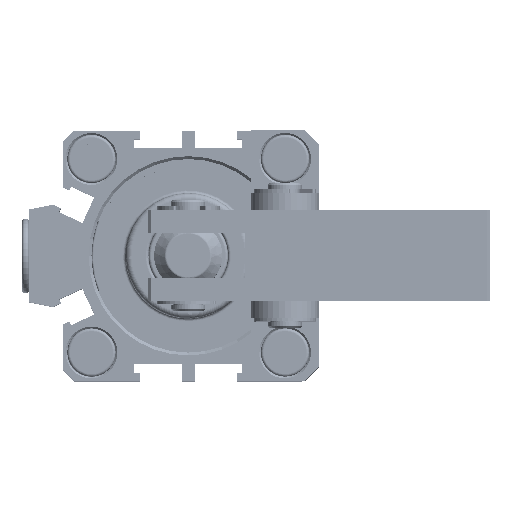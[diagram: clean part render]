
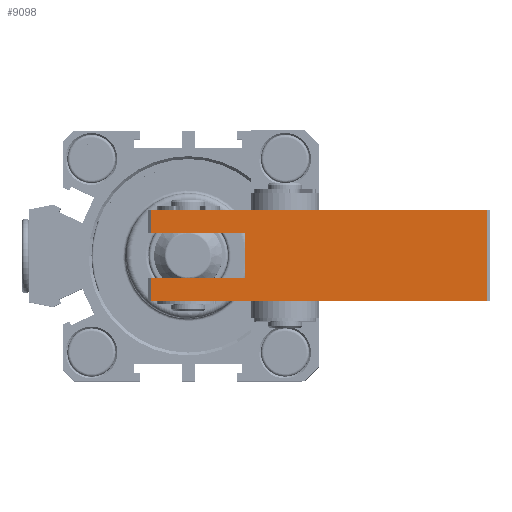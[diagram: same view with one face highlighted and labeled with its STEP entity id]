
A CAD part, top view. The second image highlights one B-rep face of the part: STEP entity #9098.
In plain terms, the highlighted planar face has unit normal (0, 0, 1) as drawn and (0, -1, 0) by its records, which use the part's own axes.
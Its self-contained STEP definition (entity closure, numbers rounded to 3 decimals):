
#622=PLANE('',#10046);
#1060=FACE_OUTER_BOUND('',#1578,.T.);
#1578=EDGE_LOOP('',(#6581,#6582,#6583,#6584,#6585,#6586,#6587,#6588));
#2104=LINE('',#14167,#2674);
#2115=LINE('',#14190,#2685);
#2126=LINE('',#14211,#2696);
#2129=LINE('',#14217,#2699);
#2130=LINE('',#14221,#2700);
#2131=LINE('',#14222,#2701);
#2132=LINE('',#14223,#2702);
#2133=LINE('',#14224,#2703);
#2674=VECTOR('',#11426,1000.);
#2685=VECTOR('',#11443,1000.);
#2696=VECTOR('',#11456,1000.);
#2699=VECTOR('',#11461,1000.);
#2700=VECTOR('',#11464,1000.);
#2701=VECTOR('',#11465,1000.);
#2702=VECTOR('',#11466,1000.);
#2703=VECTOR('',#11467,1000.);
#3943=VERTEX_POINT('',#14165);
#3944=VERTEX_POINT('',#14166);
#3952=VERTEX_POINT('',#14187);
#3953=VERTEX_POINT('',#14189);
#3962=VERTEX_POINT('',#14209);
#3964=VERTEX_POINT('',#14215);
#3965=VERTEX_POINT('',#14219);
#3966=VERTEX_POINT('',#14220);
#4973=EDGE_CURVE('',#3943,#3944,#2104,.T.);
#4984=EDGE_CURVE('',#3952,#3953,#2115,.T.);
#4995=EDGE_CURVE('',#3944,#3962,#2126,.T.);
#4998=EDGE_CURVE('',#3952,#3964,#2129,.T.);
#4999=EDGE_CURVE('',#3965,#3966,#2130,.T.);
#5000=EDGE_CURVE('',#3943,#3965,#2131,.T.);
#5001=EDGE_CURVE('',#3953,#3962,#2132,.T.);
#5002=EDGE_CURVE('',#3966,#3964,#2133,.T.);
#6581=ORIENTED_EDGE('',*,*,#4999,.F.);
#6582=ORIENTED_EDGE('',*,*,#5000,.F.);
#6583=ORIENTED_EDGE('',*,*,#4973,.T.);
#6584=ORIENTED_EDGE('',*,*,#4995,.T.);
#6585=ORIENTED_EDGE('',*,*,#5001,.F.);
#6586=ORIENTED_EDGE('',*,*,#4984,.F.);
#6587=ORIENTED_EDGE('',*,*,#4998,.T.);
#6588=ORIENTED_EDGE('',*,*,#5002,.F.);
#9098=ADVANCED_FACE('',(#1060),#622,.F.);
#10046=AXIS2_PLACEMENT_3D('',#14218,#11462,#11463);
#11426=DIRECTION('',(0.,0.,-1.));
#11443=DIRECTION('',(1.,0.,0.));
#11456=DIRECTION('',(1.,0.,0.));
#11461=DIRECTION('',(0.,0.,-1.));
#11462=DIRECTION('center_axis',(0.,1.,0.));
#11463=DIRECTION('ref_axis',(0.,0.,1.));
#11464=DIRECTION('',(0.,0.,1.));
#11465=DIRECTION('',(1.,0.,0.));
#11466=DIRECTION('',(0.,0.,-1.));
#11467=DIRECTION('',(-1.,0.,0.));
#14165=CARTESIAN_POINT('',(-14182.94,2054.79,4.));
#14166=CARTESIAN_POINT('',(-14182.94,2054.79,0.));
#14167=CARTESIAN_POINT('',(-14182.94,2054.79,16.));
#14187=CARTESIAN_POINT('',(-14182.94,2054.79,16.));
#14189=CARTESIAN_POINT('',(-14123.94,2054.79,16.));
#14190=CARTESIAN_POINT('',(-14123.94,2054.79,16.));
#14209=CARTESIAN_POINT('',(-14123.94,2054.79,0.));
#14211=CARTESIAN_POINT('',(-14123.94,2054.79,0.));
#14215=CARTESIAN_POINT('',(-14182.94,2054.79,12.));
#14217=CARTESIAN_POINT('',(-14182.94,2054.79,16.));
#14218=CARTESIAN_POINT('Origin',(-14123.94,2054.79,16.));
#14219=CARTESIAN_POINT('',(-14166.44,2054.79,4.));
#14220=CARTESIAN_POINT('',(-14166.44,2054.79,12.));
#14221=CARTESIAN_POINT('',(-14166.44,2054.79,8.));
#14222=CARTESIAN_POINT('',(-14166.44,2054.79,4.));
#14223=CARTESIAN_POINT('',(-14123.94,2054.79,16.));
#14224=CARTESIAN_POINT('',(-14186.559,2054.79,12.));
